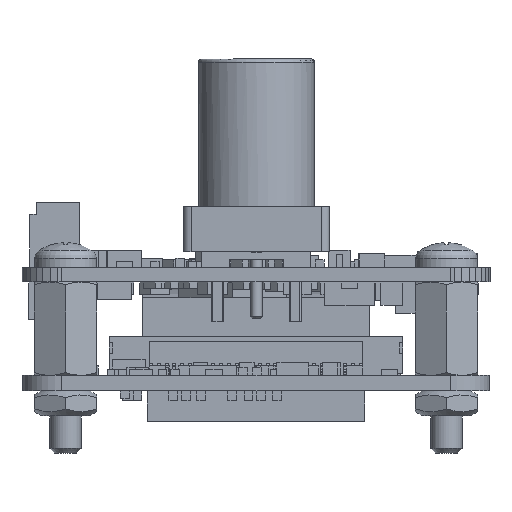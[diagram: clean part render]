
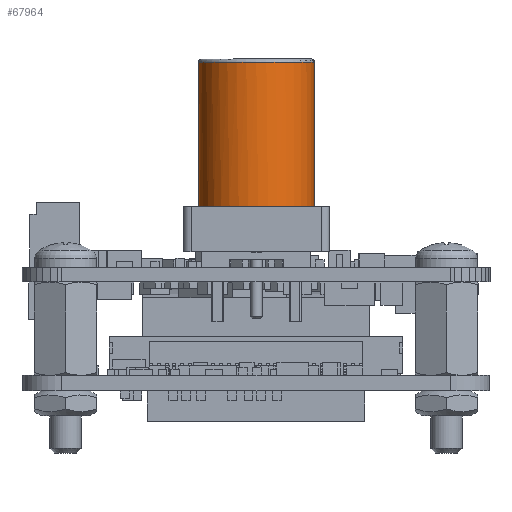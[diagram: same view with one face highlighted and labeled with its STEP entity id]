
A CAD part, front view. The second image highlights one B-rep face of the part: STEP entity #67964.
In plain terms, the highlighted cylindrical face has radius 3.725 mm (diameter 7.45 mm), a full revolution.
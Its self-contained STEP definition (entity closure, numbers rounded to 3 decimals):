
#11009=LINE('',#105469,#19346);
#11010=LINE('',#105472,#19347);
#19346=VECTOR('',#87096,1.);
#19347=VECTOR('',#87099,1.);
#23395=CYLINDRICAL_SURFACE('',#71993,3.725);
#23875=FACE_BOUND('',#30685,.T.);
#26911=FACE_OUTER_BOUND('',#30684,.T.);
#30684=EDGE_LOOP('',(#62935,#62936,#62937,#62938));
#30685=EDGE_LOOP('',(#62939));
#31561=CIRCLE('',#71994,3.725);
#31562=CIRCLE('',#71995,3.725);
#31563=CIRCLE('',#71996,3.725);
#37041=VERTEX_POINT('',#105465);
#37042=VERTEX_POINT('',#105466);
#37043=VERTEX_POINT('',#105468);
#37044=VERTEX_POINT('',#105470);
#37045=VERTEX_POINT('',#105473);
#45780=EDGE_CURVE('',#37041,#37042,#31561,.T.);
#45781=EDGE_CURVE('',#37042,#37043,#11009,.T.);
#45782=EDGE_CURVE('',#37043,#37044,#31562,.T.);
#45783=EDGE_CURVE('',#37044,#37041,#11010,.T.);
#45784=EDGE_CURVE('',#37045,#37045,#31563,.T.);
#62935=ORIENTED_EDGE('',*,*,#45780,.T.);
#62936=ORIENTED_EDGE('',*,*,#45781,.T.);
#62937=ORIENTED_EDGE('',*,*,#45782,.T.);
#62938=ORIENTED_EDGE('',*,*,#45783,.T.);
#62939=ORIENTED_EDGE('',*,*,#45784,.T.);
#67964=ADVANCED_FACE('',(#26911,#23875),#23395,.T.);
#71993=AXIS2_PLACEMENT_3D('',#105464,#87092,#87093);
#71994=AXIS2_PLACEMENT_3D('',#105467,#87094,#87095);
#71995=AXIS2_PLACEMENT_3D('',#105471,#87097,#87098);
#71996=AXIS2_PLACEMENT_3D('',#105474,#87100,#87101);
#87092=DIRECTION('center_axis',(0.,0.,1.));
#87093=DIRECTION('ref_axis',(1.,0.,0.));
#87094=DIRECTION('center_axis',(0.,0.,1.));
#87095=DIRECTION('ref_axis',(1.,0.,0.));
#87096=DIRECTION('',(0.,0.,1.));
#87097=DIRECTION('center_axis',(0.,0.,1.));
#87098=DIRECTION('ref_axis',(1.,0.,0.));
#87099=DIRECTION('',(0.,0.,-1.));
#87100=DIRECTION('center_axis',(0.,0.,-1.));
#87101=DIRECTION('ref_axis',(1.,0.,0.));
#105464=CARTESIAN_POINT('Origin',(15.024,5.75,3.913));
#105465=CARTESIAN_POINT('',(14.049,9.345,3.913));
#105466=CARTESIAN_POINT('',(15.999,9.345,3.914));
#105467=CARTESIAN_POINT('Origin',(15.024,5.75,3.913));
#105468=CARTESIAN_POINT('',(15.997,9.345,8.864));
#105469=CARTESIAN_POINT('',(15.999,9.345,3.914));
#105470=CARTESIAN_POINT('',(14.047,9.345,8.863));
#105471=CARTESIAN_POINT('Origin',(15.022,5.75,8.863));
#105472=CARTESIAN_POINT('',(14.049,9.345,3.913));
#105473=CARTESIAN_POINT('',(18.746,5.75,13.215));
#105474=CARTESIAN_POINT('Origin',(15.021,5.75,13.213));
